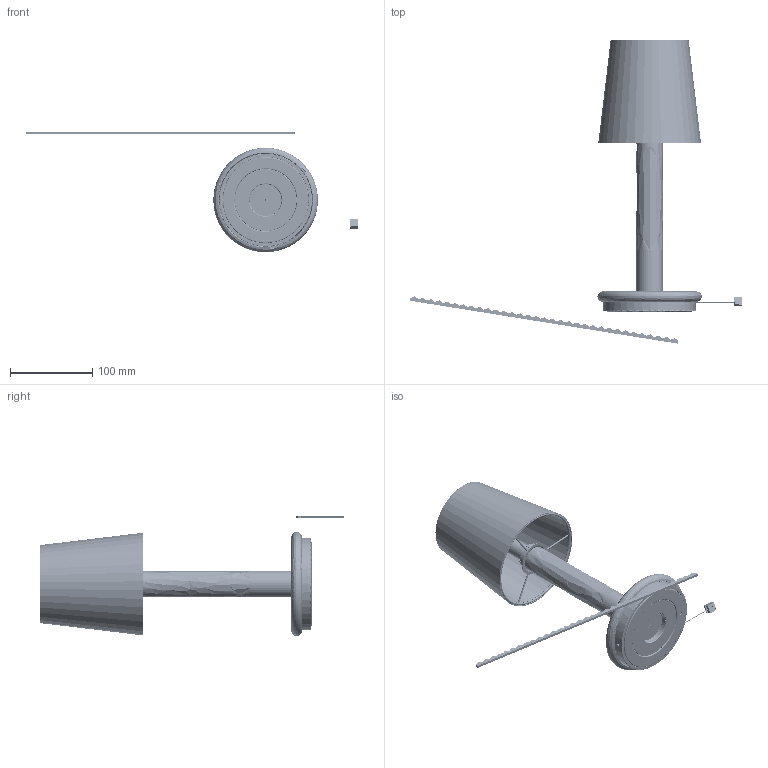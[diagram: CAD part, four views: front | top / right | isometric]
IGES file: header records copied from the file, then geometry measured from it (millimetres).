
Start section: SolidWorks IGES file using analytic representation for surfaces
Global section: file name: C:\SANTACOLE_PDM\Proyectos Catálogo\PROD-P21-002 -- BASICA MINIMA BATERIA\6_Técnico comercial\Documentación WEB\C-21-4361.IGS; native system: SolidWorks 2019; preprocessor: SolidWorks 2019; author: ana.pascual; date: 210617.155109; units: millimetre
Bounding box: 403.47 x 368.81 x 146.42 mm (x, y, z)
Surface area: 298588.6 mm2 (no closed solid volume)
Topology: 0 solids, 0 shells, 6653 faces, 63547 edges, 63326 vertices
Faces by surface type: bspline 4218, revolution 2435
